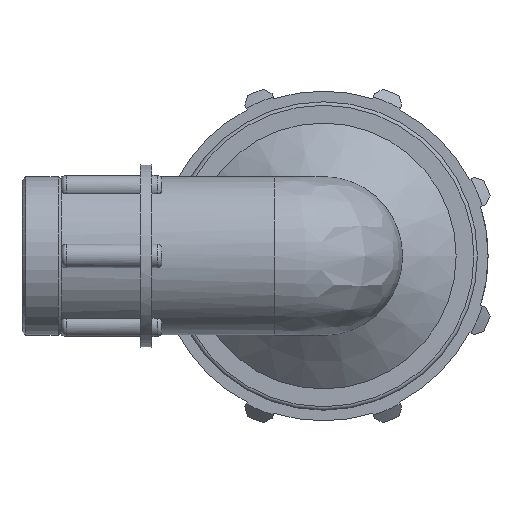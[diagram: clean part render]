
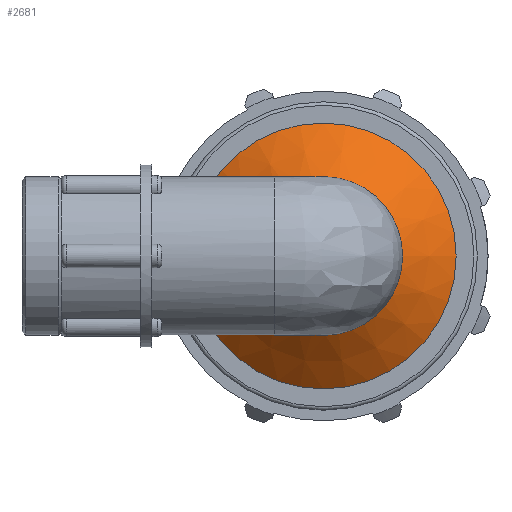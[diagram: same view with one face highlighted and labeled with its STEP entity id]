
A CAD part, left-side view. The second image highlights one B-rep face of the part: STEP entity #2681.
In plain terms, the highlighted conical face has half-angle 50 degrees and reference radius 14.802 mm.
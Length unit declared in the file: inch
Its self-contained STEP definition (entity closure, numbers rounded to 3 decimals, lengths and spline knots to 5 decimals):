
#58=CONICAL_SURFACE('',#3015,0.58275,0.873);
#267=LINE('',#4995,#406);
#406=VECTOR('',#3781,0.58275);
#587=FACE_OUTER_BOUND('',#734,.T.);
#734=EDGE_LOOP('',(#2310,#2311,#2312,#2313,#2314,#2315,#2316,#2317));
#838=CIRCLE('',#2857,0.47678);
#840=CIRCLE('',#2859,0.47678);
#923=CIRCLE('',#3016,0.79875);
#924=CIRCLE('',#3017,0.79875);
#962=B_SPLINE_CURVE_WITH_KNOTS('',3,(#4357,#4358,#4359,#4360,#4361,#4362,
#4363,#4364,#4365,#4366),.UNSPECIFIED.,.F.,.F.,(4,2,2,2,4),(4.72402,
4.8101,5.07139,5.29305,5.51472),
 .UNSPECIFIED.);
#963=B_SPLINE_CURVE_WITH_KNOTS('',3,(#4376,#4377,#4378,#4379,#4380,#4381,
#4382,#4383,#4384,#4385),.UNSPECIFIED.,.F.,.F.,(4,2,2,2,4),(5.51472,
5.73638,5.95804,6.21933,6.30541),
 .UNSPECIFIED.);
#1053=VERTEX_POINT('',#4355);
#1054=VERTEX_POINT('',#4356);
#1055=VERTEX_POINT('',#4375);
#1062=VERTEX_POINT('',#4415);
#1215=VERTEX_POINT('',#4991);
#1216=VERTEX_POINT('',#4992);
#1348=EDGE_CURVE('',#1053,#1054,#962,.T.);
#1357=EDGE_CURVE('',#1054,#1055,#963,.T.);
#1371=EDGE_CURVE('',#1053,#1062,#838,.T.);
#1373=EDGE_CURVE('',#1062,#1055,#840,.T.);
#1594=EDGE_CURVE('',#1215,#1216,#923,.T.);
#1595=EDGE_CURVE('',#1216,#1215,#924,.T.);
#1596=EDGE_CURVE('',#1216,#1062,#267,.T.);
#2310=ORIENTED_EDGE('',*,*,#1594,.F.);
#2311=ORIENTED_EDGE('',*,*,#1595,.F.);
#2312=ORIENTED_EDGE('',*,*,#1596,.T.);
#2313=ORIENTED_EDGE('',*,*,#1373,.T.);
#2314=ORIENTED_EDGE('',*,*,#1357,.F.);
#2315=ORIENTED_EDGE('',*,*,#1348,.F.);
#2316=ORIENTED_EDGE('',*,*,#1371,.T.);
#2317=ORIENTED_EDGE('',*,*,#1596,.F.);
#2681=ADVANCED_FACE('',(#587),#58,.T.);
#2857=AXIS2_PLACEMENT_3D('',#4416,#3355,#3356);
#2859=AXIS2_PLACEMENT_3D('',#4418,#3359,#3360);
#3015=AXIS2_PLACEMENT_3D('',#4990,#3775,#3776);
#3016=AXIS2_PLACEMENT_3D('',#4993,#3777,#3778);
#3017=AXIS2_PLACEMENT_3D('',#4994,#3779,#3780);
#3355=DIRECTION('center_axis',(1.,0.,0.));
#3356=DIRECTION('ref_axis',(0.,-1.,0.));
#3359=DIRECTION('center_axis',(1.,0.,0.));
#3360=DIRECTION('ref_axis',(0.,-1.,0.));
#3775=DIRECTION('center_axis',(1.,0.,0.));
#3776=DIRECTION('ref_axis',(0.,1.,0.));
#3777=DIRECTION('center_axis',(1.,0.,0.));
#3778=DIRECTION('ref_axis',(0.,0.,-1.));
#3779=DIRECTION('center_axis',(1.,0.,0.));
#3780=DIRECTION('ref_axis',(0.,0.,-1.));
#3781=DIRECTION('',(-0.643,0.766,0.));
#4355=CARTESIAN_POINT('',(0.40183,0.40183,0.25661));
#4356=CARTESIAN_POINT('',(0.47678,0.56609,0.));
#4357=CARTESIAN_POINT('Ctrl Pts',(0.40183,0.40183,0.25661));
#4358=CARTESIAN_POINT('Ctrl Pts',(0.40584,0.41151,0.25033));
#4359=CARTESIAN_POINT('Ctrl Pts',(0.40988,0.42105,0.24368));
#4360=CARTESIAN_POINT('Ctrl Pts',(0.42601,0.45851,0.21547));
#4361=CARTESIAN_POINT('Ctrl Pts',(0.43774,0.4842,0.19094));
#4362=CARTESIAN_POINT('Ctrl Pts',(0.45537,0.52194,0.14317));
#4363=CARTESIAN_POINT('Ctrl Pts',(0.46315,0.53813,0.11683));
#4364=CARTESIAN_POINT('Ctrl Pts',(0.4739,0.56027,0.05983));
#4365=CARTESIAN_POINT('Ctrl Pts',(0.47678,0.56609,0.02909));
#4366=CARTESIAN_POINT('Ctrl Pts',(0.47678,0.56609,0.));
#4375=CARTESIAN_POINT('',(0.40183,0.40183,-0.25661));
#4376=CARTESIAN_POINT('Ctrl Pts',(0.47678,0.56609,0.));
#4377=CARTESIAN_POINT('Ctrl Pts',(0.47678,0.56609,-0.02909));
#4378=CARTESIAN_POINT('Ctrl Pts',(0.4739,0.56027,-0.05983));
#4379=CARTESIAN_POINT('Ctrl Pts',(0.46315,0.53813,-0.11683));
#4380=CARTESIAN_POINT('Ctrl Pts',(0.45537,0.52194,-0.14317));
#4381=CARTESIAN_POINT('Ctrl Pts',(0.43774,0.4842,-0.19094));
#4382=CARTESIAN_POINT('Ctrl Pts',(0.42601,0.45851,-0.21547));
#4383=CARTESIAN_POINT('Ctrl Pts',(0.40988,0.42105,-0.24368));
#4384=CARTESIAN_POINT('Ctrl Pts',(0.40584,0.41151,-0.25033));
#4385=CARTESIAN_POINT('Ctrl Pts',(0.40183,0.40183,-0.25661));
#4415=CARTESIAN_POINT('',(0.40183,-0.47678,0.));
#4416=CARTESIAN_POINT('Origin',(0.40183,0.,
0.));
#4418=CARTESIAN_POINT('Origin',(0.40183,0.,
0.));
#4990=CARTESIAN_POINT('Origin',(0.49076,0.,
0.));
#4991=CARTESIAN_POINT('',(0.672,0.79875,0.));
#4992=CARTESIAN_POINT('',(0.672,-0.79875,0.));
#4993=CARTESIAN_POINT('Origin',(0.672,0.,
0.));
#4994=CARTESIAN_POINT('Origin',(0.672,0.,
0.));
#4995=CARTESIAN_POINT('',(0.49076,-0.58275,0.));
